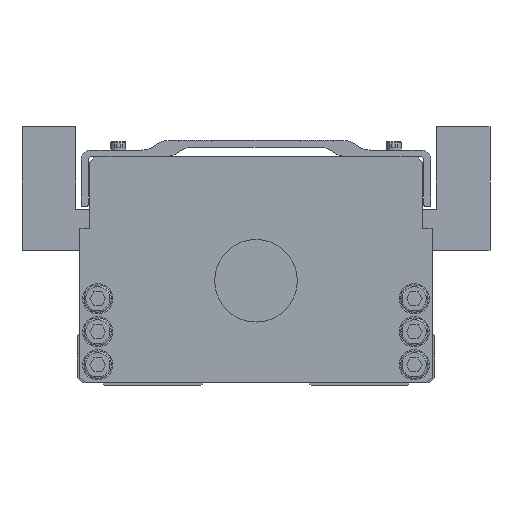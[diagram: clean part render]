
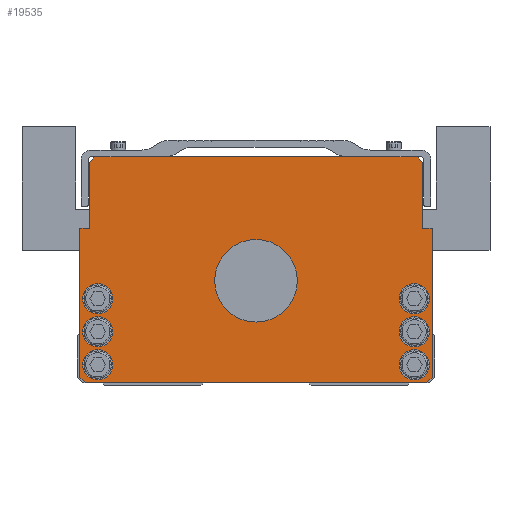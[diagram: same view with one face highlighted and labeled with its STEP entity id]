
A CAD part, front view. The second image highlights one B-rep face of the part: STEP entity #19535.
In plain terms, the highlighted planar face has unit normal (0, -1, 0).
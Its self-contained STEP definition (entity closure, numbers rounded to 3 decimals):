
#7235=VERTEX_POINT('',#20641);
#7697=EDGE_CURVE('',#10965,#9179,#21174,.T.);
#8531=EDGE_CURVE('',#16053,#10905,#22118,.T.);
#8771=EDGE_CURVE('',#11699,#16723,#22377,.T.);
#9179=VERTEX_POINT('',#22838);
#9187=VERTEX_POINT('',#22847);
#9307=EDGE_CURVE('',#10905,#10965,#22981,.T.);
#9533=EDGE_CURVE('',#17459,#19737,#23229,.T.);
#9797=EDGE_CURVE('',#11891,#10731,#23524,.T.);
#9969=EDGE_CURVE('',#17739,#11423,#23720,.T.);
#10025=VERTEX_POINT('',#23778);
#10641=EDGE_CURVE('',#9187,#19837,#24457,.T.);
#10731=VERTEX_POINT('',#24551);
#10799=EDGE_CURVE('',#18027,#10025,#24622,.T.);
#10905=VERTEX_POINT('',#24737);
#10965=VERTEX_POINT('',#24804);
#11161=VERTEX_POINT('',#25028);
#11261=VERTEX_POINT('',#25138);
#11307=VERTEX_POINT('',#25189);
#11367=EDGE_CURVE('',#18459,#11261,#25256,.T.);
#11423=VERTEX_POINT('',#25317);
#11563=EDGE_CURVE('',#15779,#18717,#25473,.T.);
#11617=EDGE_CURVE('',#7235,#11161,#25531,.T.);
#11699=VERTEX_POINT('',#25623);
#11891=VERTEX_POINT('',#25830);
#12599=EDGE_CURVE('',#13161,#16573,#26621,.T.);
#12725=EDGE_CURVE('',#13653,#16053,#26765,.T.);
#12999=EDGE_CURVE('',#11307,#7235,#27061,.T.);
#13131=EDGE_CURVE('',#11161,#17833,#27207,.T.);
#13161=VERTEX_POINT('',#27237);
#13485=EDGE_CURVE('',#9179,#11307,#27595,.T.);
#13653=VERTEX_POINT('',#27771);
#13867=EDGE_CURVE('',#14379,#13161,#28015,.T.);
#14069=EDGE_CURVE('',#19837,#14379,#28236,.T.);
#14233=EDGE_CURVE('',#16723,#11699,#28417,.T.);
#14379=VERTEX_POINT('',#28575);
#14405=EDGE_CURVE('',#17833,#9187,#28603,.T.);
#14633=EDGE_CURVE('',#11261,#18459,#28867,.T.);
#14991=EDGE_CURVE('',#10731,#11891,#29260,.T.);
#15779=VERTEX_POINT('',#30123);
#16053=VERTEX_POINT('',#30439);
#16285=EDGE_CURVE('',#16573,#13653,#30689,.T.);
#16573=VERTEX_POINT('',#31014);
#16723=VERTEX_POINT('',#31182);
#17093=EDGE_CURVE('',#18717,#15779,#31582,.T.);
#17459=VERTEX_POINT('',#32000);
#17609=EDGE_CURVE('',#19737,#17459,#32162,.T.);
#17739=VERTEX_POINT('',#32308);
#17833=VERTEX_POINT('',#32413);
#18027=VERTEX_POINT('',#32628);
#18459=VERTEX_POINT('',#33112);
#18717=VERTEX_POINT('',#33395);
#18853=EDGE_CURVE('',#11423,#17739,#33549,.T.);
#19535=ADVANCED_FACE('',(#34317,#34318,#34319,#34320,#34321,#34322,#34323,#34324),#34325,.T.);
#19737=VERTEX_POINT('',#34553);
#19837=VERTEX_POINT('',#34666);
#19955=EDGE_CURVE('',#10025,#18027,#34796,.T.);
#20641=CARTESIAN_POINT('',(60.5,0.0,57.0));
#21174=LINE('',#36389,#36390);
#22118=LINE('',#37673,#37674);
#22377=CIRCLE('',#38033,5.5);
#22838=CARTESIAN_POINT('',(58.5,0.0,83.0));
#22847=CARTESIAN_POINT('',(62.0,0.0,1.0));
#22981=LINE('',#38833,#38834);
#23229=CIRCLE('',#39195,5.5);
#23524=CIRCLE('',#39587,15.0);
#23720=CIRCLE('',#39849,5.5);
#23778=CARTESIAN_POINT('',(-52.0,0.0,31.5));
#24457=LINE('',#40890,#40891);
#24551=CARTESIAN_POINT('',(-15.0,0.0,38.0));
#24622=CIRCLE('',#41129,5.5);
#24737=CARTESIAN_POINT('',(-33.25,0.0,83.0));
#24804=CARTESIAN_POINT('',(33.25,0.0,83.0));
#25028=CARTESIAN_POINT('',(64.0,0.0,57.0));
#25138=CARTESIAN_POINT('',(63.0,0.0,31.5));
#25189=CARTESIAN_POINT('',(60.5,0.0,81.0));
#25256=CIRCLE('',#42000,5.5);
#25317=CARTESIAN_POINT('',(52.0,0.0,19.5));
#25473=CIRCLE('',#42301,5.5);
#25531=LINE('',#42388,#42389);
#25623=CARTESIAN_POINT('',(-63.0,0.0,7.5));
#25830=CARTESIAN_POINT('',(15.0,0.0,38.0));
#26621=LINE('',#43885,#43886);
#26765=LINE('',#44088,#44089);
#27061=LINE('',#44515,#44516);
#27207=LINE('',#44724,#44725);
#27237=CARTESIAN_POINT('',(-64.0,0.0,57.0));
#27595=LINE('',#45262,#45263);
#27771=CARTESIAN_POINT('',(-60.5,0.0,81.0));
#28015=LINE('',#45849,#45850);
#28236=LINE('',#46151,#46152);
#28417=CIRCLE('',#46406,5.5);
#28575=CARTESIAN_POINT('',(-64.0,0.0,3.0));
#28603=LINE('',#46663,#46664);
#28867=CIRCLE('',#47033,5.5);
#29260=CIRCLE('',#47573,15.0);
#30123=CARTESIAN_POINT('',(-52.0,0.0,19.5));
#30439=CARTESIAN_POINT('',(-58.5,0.0,83.0));
#30689=LINE('',#49589,#49590);
#31014=CARTESIAN_POINT('',(-60.5,0.0,57.0));
#31182=CARTESIAN_POINT('',(-52.0,0.0,7.5));
#31582=CIRCLE('',#50796,5.5);
#32000=CARTESIAN_POINT('',(52.0,0.0,7.5));
#32162=CIRCLE('',#51610,5.5);
#32308=CARTESIAN_POINT('',(63.0,0.0,19.5));
#32413=CARTESIAN_POINT('',(64.0,0.0,3.0));
#32628=CARTESIAN_POINT('',(-63.0,0.0,31.5));
#33112=CARTESIAN_POINT('',(52.0,0.0,31.5));
#33395=CARTESIAN_POINT('',(-63.0,0.0,19.5));
#33549=CIRCLE('',#53534,5.5);
#34317=FACE_BOUND('',#54571,.T.);
#34318=FACE_BOUND('',#54572,.T.);
#34319=FACE_BOUND('',#54573,.T.);
#34320=FACE_BOUND('',#54574,.T.);
#34321=FACE_BOUND('',#54575,.T.);
#34322=FACE_BOUND('',#54576,.T.);
#34323=FACE_BOUND('',#54577,.T.);
#34324=FACE_OUTER_BOUND('',#54578,.T.);
#34325=PLANE('',#54579);
#34553=CARTESIAN_POINT('',(63.0,0.0,7.5));
#34666=CARTESIAN_POINT('',(-62.0,0.0,1.0));
#34796=CIRCLE('',#55266,5.5);
#36389=CARTESIAN_POINT('',(58.5,0.0,83.0));
#36390=VECTOR('',#56753,1.0);
#37673=CARTESIAN_POINT('',(58.5,0.0,83.0));
#37674=VECTOR('',#57961,1.0);
#38033=AXIS2_PLACEMENT_3D('',#58218,#58219,#58220);
#38833=CARTESIAN_POINT('',(58.5,0.0,83.0));
#38834=VECTOR('',#58964,1.0);
#39195=AXIS2_PLACEMENT_3D('',#59191,#59192,#59193);
#39587=AXIS2_PLACEMENT_3D('',#59541,#59542,#59543);
#39849=AXIS2_PLACEMENT_3D('',#59782,#59783,#59784);
#40890=CARTESIAN_POINT('',(-62.0,0.0,1.0));
#40891=VECTOR('',#60548,1.0);
#41129=AXIS2_PLACEMENT_3D('',#60676,#60677,#60678);
#42000=AXIS2_PLACEMENT_3D('',#61411,#61412,#61413);
#42301=AXIS2_PLACEMENT_3D('',#61657,#61658,#61659);
#42388=CARTESIAN_POINT('',(64.0,0.0,57.0));
#42389=VECTOR('',#61714,1.0);
#43885=CARTESIAN_POINT('',(-60.5,0.0,57.0));
#43886=VECTOR('',#63022,1.0);
#44088=CARTESIAN_POINT('',(-58.5,0.0,83.0));
#44089=VECTOR('',#63244,1.);
#44515=CARTESIAN_POINT('',(60.5,0.0,57.0));
#44516=VECTOR('',#63563,1.0);
#44724=CARTESIAN_POINT('',(64.0,0.0,3.0));
#44725=VECTOR('',#63756,1.0);
#45262=CARTESIAN_POINT('',(60.5,0.0,81.0));
#45263=VECTOR('',#64173,1.);
#45849=CARTESIAN_POINT('',(-64.0,0.0,57.0));
#45850=VECTOR('',#64652,1.0);
#46151=CARTESIAN_POINT('',(-64.0,0.0,3.0));
#46152=VECTOR('',#64884,1.);
#46406=AXIS2_PLACEMENT_3D('',#65121,#65122,#65123);
#46663=CARTESIAN_POINT('',(62.0,0.0,1.0));
#46664=VECTOR('',#65303,1.);
#47033=AXIS2_PLACEMENT_3D('',#65660,#65661,#65662);
#47573=AXIS2_PLACEMENT_3D('',#66096,#66097,#66098);
#49589=CARTESIAN_POINT('',(-60.5,0.0,81.0));
#49590=VECTOR('',#67614,1.0);
#50796=AXIS2_PLACEMENT_3D('',#68595,#68596,#68597);
#51610=AXIS2_PLACEMENT_3D('',#69332,#69333,#69334);
#53534=AXIS2_PLACEMENT_3D('',#70862,#70863,#70864);
#54571=EDGE_LOOP('',(#71784,#71785));
#54572=EDGE_LOOP('',(#71786,#71787));
#54573=EDGE_LOOP('',(#71788,#71789));
#54574=EDGE_LOOP('',(#71790,#71791));
#54575=EDGE_LOOP('',(#71792,#71793));
#54576=EDGE_LOOP('',(#71794,#71795));
#54577=EDGE_LOOP('',(#71796,#71797));
#54578=EDGE_LOOP('',(#71798,#71799,#71800,#71801,#71802,#71803,#71804,#71805,#71806,#71807,#71808,#71809,#71810,#71811));
#54579=AXIS2_PLACEMENT_3D('',#71812,#71813,#71814);
#55266=AXIS2_PLACEMENT_3D('',#72355,#72356,#72357);
#56753=DIRECTION('',(1.0,0.0,0.0));
#57961=DIRECTION('',(1.0,0.0,0.0));
#58218=CARTESIAN_POINT('',(-57.5,0.0,7.5));
#58219=DIRECTION('',(-0.0,1.0,0.0));
#58220=DIRECTION('',(1.0,0.0,0.0));
#58964=DIRECTION('',(1.0,0.0,0.0));
#59191=CARTESIAN_POINT('',(57.5,0.0,7.5));
#59192=DIRECTION('',(-0.0,1.0,0.0));
#59193=DIRECTION('',(1.0,0.0,0.0));
#59541=CARTESIAN_POINT('',(0.0,0.0,38.0));
#59542=DIRECTION('',(-0.0,1.0,0.0));
#59543=DIRECTION('',(1.0,0.0,0.0));
#59782=CARTESIAN_POINT('',(57.5,0.0,19.5));
#59783=DIRECTION('',(-0.0,1.0,0.0));
#59784=DIRECTION('',(1.0,0.0,0.0));
#60548=DIRECTION('',(-1.0,0.0,-0.0));
#60676=CARTESIAN_POINT('',(-57.5,0.0,31.5));
#60677=DIRECTION('',(-0.0,1.0,0.0));
#60678=DIRECTION('',(1.0,0.0,0.0));
#61411=CARTESIAN_POINT('',(57.5,0.0,31.5));
#61412=DIRECTION('',(-0.0,1.0,0.0));
#61413=DIRECTION('',(1.0,0.0,0.0));
#61657=CARTESIAN_POINT('',(-57.5,0.0,19.5));
#61658=DIRECTION('',(-0.0,1.0,0.0));
#61659=DIRECTION('',(1.0,0.0,0.0));
#61714=DIRECTION('',(1.0,0.0,0.0));
#63022=DIRECTION('',(1.0,0.0,0.0));
#63244=DIRECTION('',(0.707,0.0,0.707));
#63563=DIRECTION('',(-0.0,0.0,-1.0));
#63756=DIRECTION('',(-0.0,0.0,-1.0));
#64173=DIRECTION('',(0.707,0.0,-0.707));
#64652=DIRECTION('',(0.0,0.0,1.0));
#64884=DIRECTION('',(-0.707,0.0,0.707));
#65121=CARTESIAN_POINT('',(-57.5,0.0,7.5));
#65122=DIRECTION('',(-0.0,1.0,0.0));
#65123=DIRECTION('',(1.0,0.0,0.0));
#65303=DIRECTION('',(-0.707,0.0,-0.707));
#65660=CARTESIAN_POINT('',(57.5,0.0,31.5));
#65661=DIRECTION('',(-0.0,1.0,0.0));
#65662=DIRECTION('',(1.0,0.0,0.0));
#66096=CARTESIAN_POINT('',(0.0,0.0,38.0));
#66097=DIRECTION('',(-0.0,1.0,0.0));
#66098=DIRECTION('',(1.0,0.0,0.0));
#67614=DIRECTION('',(0.0,0.0,1.0));
#68595=CARTESIAN_POINT('',(-57.5,0.0,19.5));
#68596=DIRECTION('',(-0.0,1.0,0.0));
#68597=DIRECTION('',(1.0,0.0,0.0));
#69332=CARTESIAN_POINT('',(57.5,0.0,7.5));
#69333=DIRECTION('',(-0.0,1.0,0.0));
#69334=DIRECTION('',(1.0,0.0,0.0));
#70862=CARTESIAN_POINT('',(57.5,0.0,19.5));
#70863=DIRECTION('',(-0.0,1.0,0.0));
#70864=DIRECTION('',(1.0,0.0,0.0));
#71784=ORIENTED_EDGE('',*,*,#9797,.T.);
#71785=ORIENTED_EDGE('',*,*,#14991,.T.);
#71786=ORIENTED_EDGE('',*,*,#14633,.T.);
#71787=ORIENTED_EDGE('',*,*,#11367,.T.);
#71788=ORIENTED_EDGE('',*,*,#9969,.T.);
#71789=ORIENTED_EDGE('',*,*,#18853,.T.);
#71790=ORIENTED_EDGE('',*,*,#17609,.T.);
#71791=ORIENTED_EDGE('',*,*,#9533,.T.);
#71792=ORIENTED_EDGE('',*,*,#19955,.T.);
#71793=ORIENTED_EDGE('',*,*,#10799,.T.);
#71794=ORIENTED_EDGE('',*,*,#11563,.T.);
#71795=ORIENTED_EDGE('',*,*,#17093,.T.);
#71796=ORIENTED_EDGE('',*,*,#14233,.T.);
#71797=ORIENTED_EDGE('',*,*,#8771,.T.);
#71798=ORIENTED_EDGE('',*,*,#14069,.F.);
#71799=ORIENTED_EDGE('',*,*,#10641,.F.);
#71800=ORIENTED_EDGE('',*,*,#14405,.F.);
#71801=ORIENTED_EDGE('',*,*,#13131,.F.);
#71802=ORIENTED_EDGE('',*,*,#11617,.F.);
#71803=ORIENTED_EDGE('',*,*,#12999,.F.);
#71804=ORIENTED_EDGE('',*,*,#13485,.F.);
#71805=ORIENTED_EDGE('',*,*,#7697,.F.);
#71806=ORIENTED_EDGE('',*,*,#9307,.F.);
#71807=ORIENTED_EDGE('',*,*,#8531,.F.);
#71808=ORIENTED_EDGE('',*,*,#12725,.F.);
#71809=ORIENTED_EDGE('',*,*,#16285,.F.);
#71810=ORIENTED_EDGE('',*,*,#12599,.F.);
#71811=ORIENTED_EDGE('',*,*,#13867,.F.);
#71812=CARTESIAN_POINT('',(0.,0.0,41.562));
#71813=DIRECTION('',(0.0,-1.0,0.0));
#71814=DIRECTION('',(1.0,0.0,0.0));
#72355=CARTESIAN_POINT('',(-57.5,0.0,31.5));
#72356=DIRECTION('',(-0.0,1.0,0.0));
#72357=DIRECTION('',(1.0,0.0,0.0));
